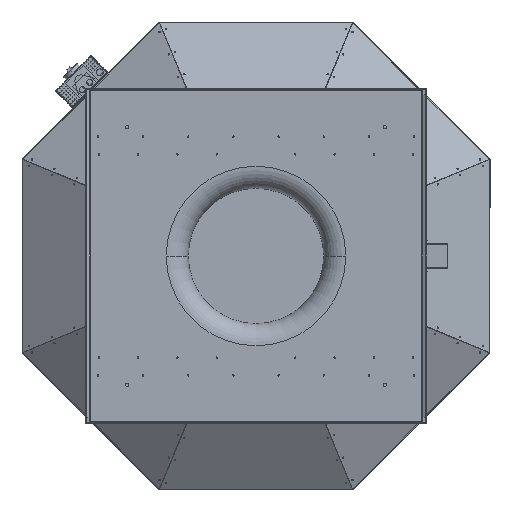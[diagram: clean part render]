
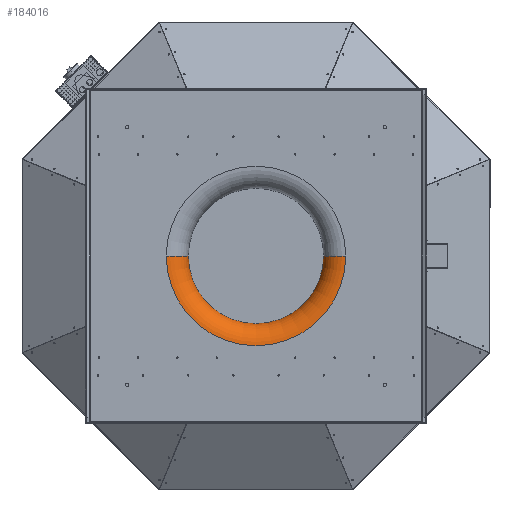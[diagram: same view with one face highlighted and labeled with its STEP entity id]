
A CAD part, front view. The second image highlights one B-rep face of the part: STEP entity #184016.
In plain terms, the highlighted toroidal (fillet/blend) face has major radius 292.5 mm and minor radius 72 mm.
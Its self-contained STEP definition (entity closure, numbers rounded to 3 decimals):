
#13726 = CIRCLE ( 'NONE', #65638, 72. ) ;
#17088 = CIRCLE ( 'NONE', #98091, 292.5 ) ;
#17248 = CIRCLE ( 'NONE', #162984, 220.5 ) ;
#19931 = VERTEX_POINT ( 'NONE', #43654 ) ;
#21216 = DIRECTION ( 'NONE',  ( 0., 0., -1. ) ) ;
#21706 = ORIENTED_EDGE ( 'NONE', *, *, #103893, .F. ) ;
#29341 = ORIENTED_EDGE ( 'NONE', *, *, #129383, .T. ) ;
#30275 = DIRECTION ( 'NONE',  ( -1., 0., 0. ) ) ;
#36048 = CARTESIAN_POINT ( 'NONE',  ( -292.5, -1., 0. ) ) ;
#38519 = DIRECTION ( 'NONE',  ( 0., 0., 1. ) ) ;
#40094 = CARTESIAN_POINT ( 'NONE',  ( -220.5, 71., 0. ) ) ;
#40803 = DIRECTION ( 'NONE',  ( 0., -1., 0. ) ) ;
#41280 = CARTESIAN_POINT ( 'NONE',  ( 0., -1., 0. ) ) ;
#43654 = CARTESIAN_POINT ( 'NONE',  ( 220.5, 71., 0. ) ) ;
#48817 = AXIS2_PLACEMENT_3D ( 'NONE', #121578, #21216, #176836 ) ;
#49098 = VERTEX_POINT ( 'NONE', #40094 ) ;
#51234 = DIRECTION ( 'NONE',  ( -1., 0., 0. ) ) ;
#58154 = VERTEX_POINT ( 'NONE', #166704 ) ;
#65638 = AXIS2_PLACEMENT_3D ( 'NONE', #150612, #38519, #169384 ) ;
#73603 = EDGE_CURVE ( 'NONE', #123990, #58154, #17088, .T. ) ;
#77909 = CARTESIAN_POINT ( 'NONE',  ( 0., 71., 0. ) ) ;
#96667 = DIRECTION ( 'NONE',  ( 0., -1., 0. ) ) ;
#98091 = AXIS2_PLACEMENT_3D ( 'NONE', #41280, #40803, #51234 ) ;
#103893 = EDGE_CURVE ( 'NONE', #49098, #19931, #17248, .T. ) ;
#115577 = DIRECTION ( 'NONE',  ( -1., 0., 0. ) ) ;
#121578 = CARTESIAN_POINT ( 'NONE',  ( 292.5, 71., 0. ) ) ;
#123990 = VERTEX_POINT ( 'NONE', #36048 ) ;
#129383 = EDGE_CURVE ( 'NONE', #58154, #19931, #240763, .T. ) ;
#137148 = ORIENTED_EDGE ( 'NONE', *, *, #73603, .T. ) ;
#150612 = CARTESIAN_POINT ( 'NONE',  ( -292.5, 71., 0. ) ) ;
#152458 = ORIENTED_EDGE ( 'NONE', *, *, #192939, .F. ) ;
#162984 = AXIS2_PLACEMENT_3D ( 'NONE', #190081, #173720, #30275 ) ;
#166704 = CARTESIAN_POINT ( 'NONE',  ( 292.5, -1., 0. ) ) ;
#169384 = DIRECTION ( 'NONE',  ( 0., -1., 0. ) ) ;
#173720 = DIRECTION ( 'NONE',  ( 0., -1., 0. ) ) ;
#174276 = EDGE_LOOP ( 'NONE', ( #137148, #29341, #21706, #152458 ) ) ;
#176836 = DIRECTION ( 'NONE',  ( -1., 0., 0. ) ) ;
#177359 = FACE_OUTER_BOUND ( 'NONE', #174276, .T. ) ;
#184016 = ADVANCED_FACE ( 'NONE', ( #177359 ), #237038, .T. ) ;
#190081 = CARTESIAN_POINT ( 'NONE',  ( 0., 71., 0. ) ) ;
#192939 = EDGE_CURVE ( 'NONE', #123990, #49098, #13726, .T. ) ;
#199780 = AXIS2_PLACEMENT_3D ( 'NONE', #77909, #96667, #115577 ) ;
#237038 = TOROIDAL_SURFACE ( 'NONE', #199780, 292.5, 72. ) ;
#240763 = CIRCLE ( 'NONE', #48817, 72. ) ;
